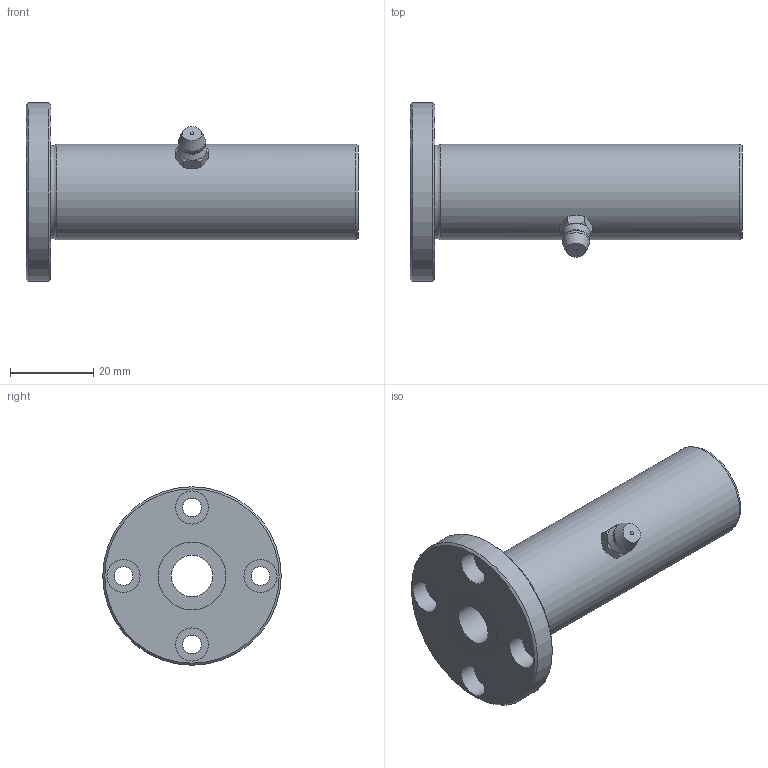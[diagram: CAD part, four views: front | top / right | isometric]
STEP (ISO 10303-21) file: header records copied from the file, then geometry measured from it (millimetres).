
FILE_DESCRIPTION((''),'2;1');
FILE_NAME('D:\製品 (図面)\カタログ用3D\リニアベアリング関連\STEP形式\LFL\LFL10.stp','2010-06-04T08:59:11',('Tsuchiya'),(''),'Autodesk Inventor 10','Autodesk Inventor 10','');
FILE_SCHEMA(('AUTOMOTIVE_DESIGN { 1 0 10303 214 1 1 1 1 }'));
Length unit declared in the file: millimetre
Products named in the file (1): LFL10
Bounding box: 80 x 43 x 43 mm (x, y, z)
Volume: 32390.7 mm3; surface area: 11932.2 mm2
Topology: 1 solids, 1 shells, 55 faces, 110 edges, 66 vertices
Faces by surface type: plane 19, cone 15, cylinder 15, bspline 3, sphere 2, torus 1
Full cylindrical faces by diameter (mm): 4.5 x4, 8 x4, 10 x1, 16.3 x2, 23 x1, 43 x1
Entity records: 1561 total; most frequent: CARTESIAN_POINT 508, DIRECTION 220, ORIENTED_EDGE 176, AXIS2_PLACEMENT_3D 105, EDGE_LOOP 96, EDGE_CURVE 88, VERTEX_POINT 64, FACE_OUTER_BOUND 55
